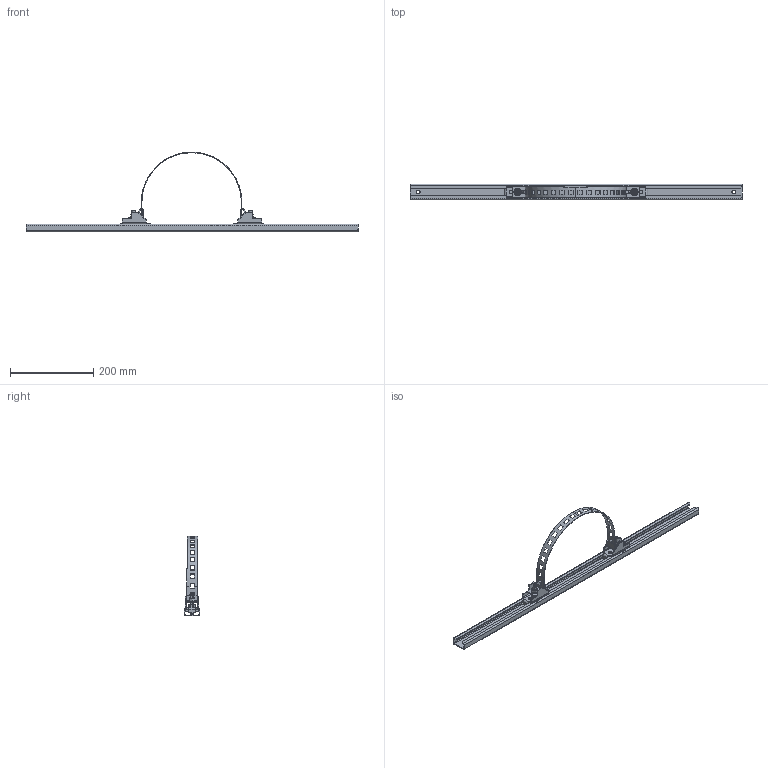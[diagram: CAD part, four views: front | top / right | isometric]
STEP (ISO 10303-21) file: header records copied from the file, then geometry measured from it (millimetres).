
FILE_DESCRIPTION (( 'STEP AP203' ), '1' );
FILE_NAME ('OK 80 EP.STEP', '2021-03-09T14:45:49', ( '' ), ( '' ), 'SwSTEP 2.0', 'SolidWorks 2018', '' );
FILE_SCHEMA (( 'CONFIG_CONTROL_DESIGN' ));
Length unit declared in the file: millimetre
Products named in the file (9): Òðàâåðñà (ñ èñïîëíåíèÿìè 200-1200)_’à ¢¥àá  800; 襄痿铍屙蜞 450祆_懏－汊狅-1; Ãàéêà îö. ñ ôëàíöåì, ðèôëåíàÿ Ì8 DIN 6923_Hexagon Flange Nut DIN 6923 - M8 - C; Ãàéêà îö. Ì8 DIN 934; Êðîíøòåéí äëÿ êðåïëåíèÿ ê ñòîëáó; OK 80 EP; Ãàéêà õîäîâàÿ Ì8; Óãîëîê âàð. 2; Âèíò Ì8õ50 ÃÎÑÒ 8878-93_Œ8å50
Assembly tree (14 placements, depth 2):
  OK 80 EP
    Òðàâåðñà (ñ èñïîëíåíèÿìè 200-1200)_’à ¢¥àá  800
    Ãàéêà õîäîâàÿ Ì8  x2
    Âèíò Ì8õ50 ÃÎÑÒ 8878-93_Œ8å50  x2
    Êðîíøòåéí äëÿ êðåïëåíèÿ ê ñòîëáó  x2
    Ãàéêà îö. ñ ôëàíöåì, ðèôëåíàÿ Ì8 DIN 6923_Hexagon Flange Nut DIN 6923 - M8 - C  x2
    Óãîëîê âàð. 2  x2
    Ãàéêà îö. Ì8 DIN 934  x2
    襄痿铍屙蜞 450祆_懏－汊狅-1
Bounding box: 800 x 38.05 x 192.31 mm (x, y, z)
Volume: 188286.9 mm3; surface area: 192327.9 mm2
Topology: 14 solids, 14 shells, 574 faces, 1398 edges, 846 vertices
Faces by surface type: plane 386, cylinder 96, cone 76, bspline 12, torus 4
Entity records: 12101 total; most frequent: CARTESIAN_POINT 2256, DIRECTION 1818, ORIENTED_EDGE 1796, EDGE_CURVE 898, VECTOR 612, LINE 612, AXIS2_PLACEMENT_3D 603, VERTEX_POINT 549
